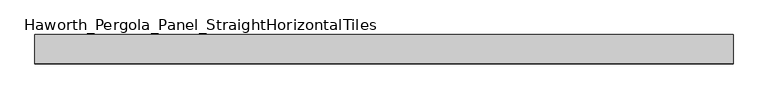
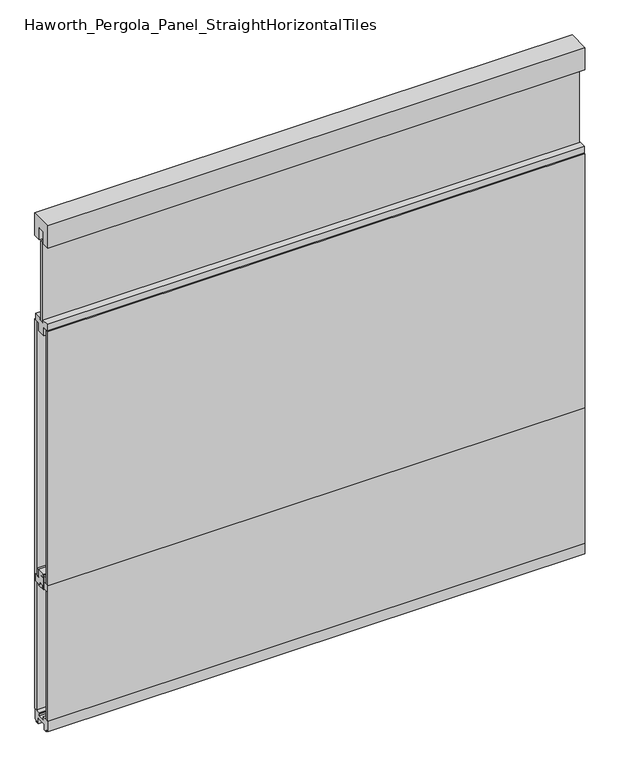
"""IFC4 building model written with IfcOpenShell, lengths in millimetres: furniture geometry, Haworth_Pergola_Panel_StraightHorizontalTiles : Horizontal Tiles (28h 48h 16h)- 96h 96w."""

from ifc_helpers import new_model, si_unit, frame, origin, place, context, project, spatial, polyline, outline, extrude, source, transform, mapped, element, save


def haworth_pergola_panel_straighthorizontaltiles_e847dace(model_context):
    return source(origin(), model_context, "Body", "SweptSolid", [
        extrude(outline(polyline([(12.7, 679.45), (12.7, 692.15), (-12.7, 692.15), (-12.7, 679.45), (-44.45, 679.45), (-44.45, 711.2), (-19.05, 711.2), (-19.05, 749.3), (19.05, 749.3), (19.05, 711.2), (44.45, 711.2), (44.45, 679.45), (12.7, 679.45)])), frame((-1181.1, 0.0, 0.0), z_axis=(1.0, 0.0, 0.0), x_axis=(0.0, 1.0, 0.0)), (0.0, 0.0, 1.0), 2438.4),
        extrude(outline(polyline([(12.7, 1962.15), (44.45, 1962.15), (44.45, 1930.4), (19.05, 1930.4), (19.05, 1892.3), (-19.05, 1892.3), (-19.05, 1930.4), (-44.45, 1930.4), (-44.45, 1962.15), (-12.7, 1962.15), (-12.7, 1949.45), (12.7, 1949.45), (12.7, 1962.15)])), frame((-1181.1, 0.0, 0.0), z_axis=(1.0, 0.0, 0.0), x_axis=(0.0, 1.0, 0.0)), (0.0, 0.0, 1.0), 2438.4),
        extrude(outline(polyline([(-1181.1, 50.8), (1257.3, 50.8), (1257.3, 38.1), (-1181.1, 38.1), (-1181.1, 50.8)])), frame((0.0, 0.0, 711.2), z_axis=(0.0, 0.0, 1.0), x_axis=(1.0, 0.0, 0.0)), (0.0, 0.0, 1.0), 1219.2),
        extrude(outline(polyline([(-1181.1, -38.1), (1257.3, -38.1), (1257.3, -50.8), (-1181.1, -50.8), (-1181.1, -38.1)])), frame((0.0, 0.0, 711.2), z_axis=(0.0, 0.0, 1.0), x_axis=(1.0, 0.0, 0.0)), (0.0, 0.0, 1.0), 1219.2),
        extrude(outline(polyline([(-1181.1, 6.35), (1257.3, 6.35), (1257.3, -6.35), (-1181.1, -6.35), (-1181.1, 6.35)])), frame((0.0, 0.0, 1930.4), z_axis=(0.0, 0.0, 1.0), x_axis=(1.0, 0.0, 0.0)), (0.0, 0.0, 1.0), 401.4390625),
        extrude(outline(polyline([(12.7, 742.95), (44.45, 742.95), (44.45, 711.2), (19.05, 711.2), (19.05, 673.1), (-19.05, 673.1), (-19.05, 711.2), (-44.45, 711.2), (-44.45, 742.95), (-12.7, 742.95), (-12.7, 730.25), (12.7, 730.25), (12.7, 742.95)])), frame((-1181.1, 0.0, 0.0), z_axis=(1.0, 0.0, 0.0), x_axis=(0.0, 1.0, 0.0)), (0.0, 0.0, 1.0), 2438.4),
        extrude(outline(polyline([(-1181.1, 50.8), (1257.3, 50.8), (1257.3, 38.1), (-1181.1, 38.1), (-1181.1, 50.8)])), frame((0.0, 0.0, 63.5), z_axis=(0.0, 0.0, 1.0), x_axis=(1.0, 0.0, 0.0)), (0.0, 0.0, 1.0), 647.7),
        extrude(outline(polyline([(-1181.1, -38.1), (1257.3, -38.1), (1257.3, -50.8), (-1181.1, -50.8), (-1181.1, -38.1)])), frame((0.0, 0.0, 63.5), z_axis=(0.0, 0.0, 1.0), x_axis=(1.0, 0.0, 0.0)), (0.0, 0.0, 1.0), 647.7),
        extrude(outline(polyline([(-50.8, 2438.4), (50.8, 2438.4), (50.8, 2331.8390625), (15.2182948, 2331.8390625), (15.2182948, 2388.7001663), (-15.2182948, 2388.7001663), (-15.2182948, 2331.8390625), (-50.8, 2331.8390625), (-50.8, 2438.4)])), frame((-1181.1, 0.0, 0.0), z_axis=(1.0, 0.0, 0.0), x_axis=(0.0, 1.0, 0.0)), (0.0, 0.0, 1.0), 2438.4),
        extrude(outline(polyline([(-16.2000002, 63.5), (-16.5085717, 61.7499999), (-13.3999996, 61.7499999), (-13.3999996, 58.8973461), (-15.4000002, 59.2499999), (-15.4000002, 48.3500004), (15.4000003, 48.3500004), (15.4000003, 59.2499999), (13.3999997, 58.8973461), (13.3999997, 61.7499999), (16.5085718, 61.7499999), (16.2000003, 63.5), (50.0000004, 63.5), (50.0000004, 12.6999985), (40.9499987, 12.6999985), (38.9499981, 10.6999979), (28.9499999, 10.6999979), (28.9499999, 7.6999994), (38.9499981, 7.6999994), (38.9499981, 5.6999988), (23.7499993, 5.6999988), (23.7499993, 31.4500009), (-23.7499992, 31.4500009), (-23.7499992, 5.6999988), (-38.949998, 5.6999988), (-38.949998, 7.6999994), (-28.9499998, 7.6999994), (-28.9499998, 10.6999979), (-38.949998, 10.6999979), (-40.9499986, 12.6999985), (-50.0000003, 12.6999985), (-50.0000003, 63.5), (-16.2000002, 63.5)])), frame((-1181.1, 0.0, 0.0), z_axis=(1.0, 0.0, 0.0), x_axis=(0.0, 1.0, 0.0)), (0.0, 0.0, 1.0), 2438.4),
    ])


if __name__ == "__main__":
    model = new_model("IFC4")
    model_context = context("Model", 3, world=origin())
    ifc_project = project(units=[si_unit("LENGTHUNIT", "METRE", prefix="MILLI")], contexts=[model_context])
    site = spatial("IfcSite", under=ifc_project)
    building = spatial("IfcBuilding", under=site)
    placement = place(None, origin())
    haworth_pergola_panel_straighthorizontaltiles_shape = haworth_pergola_panel_straighthorizontaltiles_e847dace(model_context)
    element("IfcFurniture", 1, ObjectType="Haworth_Pergola_Panel_StraightHorizontalTiles : Horizontal Tiles (28h 48h 16h)- 96h 96w", at=placement, inside=building, context=model_context, shape_type="MappedRepresentation", body=[
        mapped(haworth_pergola_panel_straighthorizontaltiles_shape, transform((0.0, 0.0, 0.0), x_axis=(1.0, 0.0, 0.0), y_axis=(0.0, 1.0, 0.0), z_axis=(0.0, 0.0, 1.0))),
    ])
    save(model, "model.ifc")
